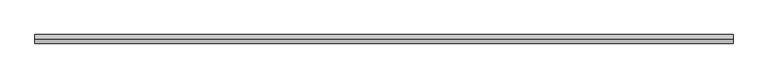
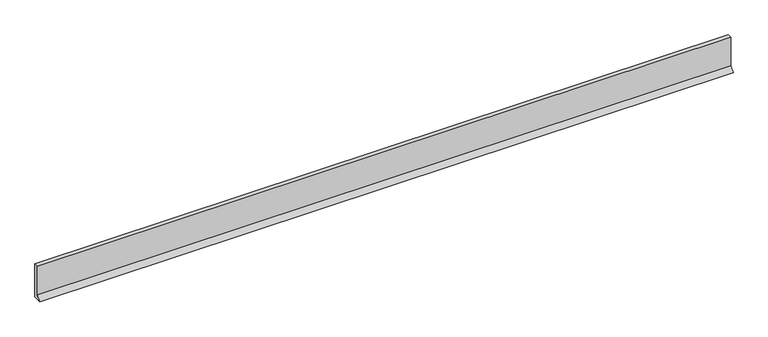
"""IFC4 building model written with IfcOpenShell, lengths in millimetres: plate geometry, ATELIERS 3S_EPURE CDB 250_HORIZONTAL : AZURO."""

import ifcopenshell
import ifcopenshell.guid

model = None  # the IFC model being written
_history = None  # IfcOwnerHistory: only IFC2X3 demands one
_inside = {}  # id of a spatial element -> (the spatial element, [elements in it])
_under = {}  # id of a project, library or spatial element -> (it, [spatial elements below it])
_declared = {}  # id of a project -> (the project, [libraries it declares])
_typed = {}  # id of a type object -> (the type object, [elements of that type])
_made_of = {}  # id of a material, layer set ... -> (it, [elements and type objects made of it])


def new_model(schema):
    """Start an empty IFC model of exactly this schema.

    Asked for "IFC4X3", IfcOpenShell would pick the latest addendum, in which some entities
    have other attributes; the version numbers below select the first issue.
    IFC2X3 requires an IfcOwnerHistory on every rooted entity: one is made here for all.
    """
    global model, _history
    if schema == "IFC4X3":
        model = ifcopenshell.file(schema_version=(4, 3, 0, 0))
    else:
        model = ifcopenshell.file(schema=schema)
    _inside.clear()
    _under.clear()
    _declared.clear()
    _typed.clear()
    _made_of.clear()
    _history = None
    if model.schema == "IFC2X3":
        org = make("IfcOrganization", Name="unknown")
        user = make(
            "IfcPersonAndOrganization",
            ThePerson=make("IfcPerson", FamilyName="unknown"),
            TheOrganization=org,
        )
        app = make(
            "IfcApplication",
            ApplicationDeveloper=org,
            Version="unknown",
            ApplicationFullName="unknown",
            ApplicationIdentifier="unknown",
        )
        _history = make(
            "IfcOwnerHistory",
            OwningUser=user,
            OwningApplication=app,
            ChangeAction="ADDED",
            CreationDate=0,
        )
    return model


def make(cls, **values):
    """One entity of the class cls with the attributes given. An attribute that is None is left unset."""
    return model.create_entity(
        cls, **{name: value for name, value in values.items() if value is not None}
    )


def rooted(cls, **values):
    """An entity with a GlobalId (a new one), such as an element, a storey or a relation."""
    return make(cls, GlobalId=ifcopenshell.guid.new(), OwnerHistory=_history, **values)


def si_unit(unit_type, name, prefix=None):
    """IfcSIUnit, for example si_unit("LENGTHUNIT", "METRE", prefix="MILLI")."""
    return make("IfcSIUnit", UnitType=unit_type, Prefix=prefix, Name=name)


def assignment(units):
    """IfcUnitAssignment: the units of a project."""
    return None if units is None else make("IfcUnitAssignment", Units=units)


def point(xyz):
    """IfcCartesianPoint."""
    return None if xyz is None else make("IfcCartesianPoint", Coordinates=xyz)


def direction(xyz):
    """IfcDirection."""
    return None if xyz is None else make("IfcDirection", DirectionRatios=xyz)


def frame(location, z_axis=None, x_axis=None):
    """IfcAxis2Placement3D, a coordinate frame: its origin and axes. An axis left out is left unset."""
    return make(
        "IfcAxis2Placement3D",
        Location=point(location),
        Axis=direction(z_axis),
        RefDirection=direction(x_axis),
    )


def origin():
    """The frame at (0, 0, 0) with its axes left unset."""
    return frame((0.0, 0.0, 0.0))


def place(relative_to, where):
    """IfcLocalPlacement: puts the frame where relative to a parent placement (None: the world)."""
    return make(
        "IfcLocalPlacement", PlacementRelTo=relative_to, RelativePlacement=where
    )


def context(
    kind, dimensions, precision=None, world=None, true_north=None, identifier=None
):
    """IfcGeometricRepresentationContext, for example the 3D "Model" context."""
    return make(
        "IfcGeometricRepresentationContext",
        ContextIdentifier=identifier,
        ContextType=kind,
        CoordinateSpaceDimension=dimensions,
        Precision=precision,
        WorldCoordinateSystem=world,
        TrueNorth=true_north,
    )


def project(units=None, contexts=None):
    """IfcProject with its units and contexts."""
    return rooted(
        "IfcProject",
        Name="project",
        RepresentationContexts=contexts,
        UnitsInContext=assignment(units),
    )


def spatial(cls, under=None, at=None, **own):
    """A site, building, storey or space (cls), placed at a placement, below another one or the project."""
    s = rooted(cls, ObjectPlacement=at, **own)
    if under is not None:
        _under.setdefault(under.id(), (under, []))[1].append(s)
    return s


def polyline(points):
    """IfcPolyline through the points."""
    return make("IfcPolyline", Points=[point(p) for p in points])


def outline(outer, holes=None, kind="AREA"):
    """IfcArbitraryClosedProfileDef: a profile drawn as a closed curve; with holes, ...WithVoids."""
    if holes is None:
        return make("IfcArbitraryClosedProfileDef", ProfileType=kind, OuterCurve=outer)
    return make(
        "IfcArbitraryProfileDefWithVoids",
        ProfileType=kind,
        OuterCurve=outer,
        InnerCurves=holes,
    )


def extrude(swept, where, along, depth):
    """IfcExtrudedAreaSolid: the profile swept, set in the frame where, extruded along a direction by depth."""
    return make(
        "IfcExtrudedAreaSolid",
        SweptArea=swept,
        Position=where,
        ExtrudedDirection=direction(along),
        Depth=depth,
    )


def shape(context_of_items, identifier, shape_type, items):
    """IfcShapeRepresentation: the items that make up one representation, for example the "Body"."""
    return make(
        "IfcShapeRepresentation",
        ContextOfItems=context_of_items,
        RepresentationIdentifier=identifier,
        RepresentationType=shape_type,
        Items=items,
    )


def source(mapping_origin, context_of_items, identifier, shape_type, items):
    """IfcRepresentationMap: a shape defined once, which mapped items show again and again."""
    return make(
        "IfcRepresentationMap",
        MappingOrigin=mapping_origin,
        MappedRepresentation=shape(context_of_items, identifier, shape_type, items),
    )


def transform(
    local_origin,
    x_axis=None,
    y_axis=None,
    z_axis=None,
    scale=None,
    scale2=None,
    scale3=None,
    uniform=True,
):
    """IfcCartesianTransformationOperator3D, or its non-uniform kind. x_axis, y_axis, z_axis: its Axis1, 2, 3."""
    if uniform:
        return make(
            "IfcCartesianTransformationOperator3D",
            Axis1=direction(x_axis),
            Axis2=direction(y_axis),
            LocalOrigin=point(local_origin),
            Scale=scale,
            Axis3=direction(z_axis),
        )
    return make(
        "IfcCartesianTransformationOperator3DnonUniform",
        Axis1=direction(x_axis),
        Axis2=direction(y_axis),
        LocalOrigin=point(local_origin),
        Scale=scale,
        Axis3=direction(z_axis),
        Scale2=scale2,
        Scale3=scale3,
    )


def mapped(mapping_source, mapping_target):
    """IfcMappedItem: shows the shape of a source again, moved by a transform."""
    return make(
        "IfcMappedItem", MappingSource=mapping_source, MappingTarget=mapping_target
    )


def made_of(thing, what):
    """Note that an element or type object is made of a material, layer set ...; save() writes the relation."""
    if what is not None:
        _made_of.setdefault(what.id(), (what, []))[1].append(thing)
    return thing


def element(
    cls,
    number,
    at=None,
    inside=None,
    cuts=None,
    type_object=None,
    material=None,
    context=None,
    identifier="Body",
    shape_type=None,
    held_by="IfcProductDefinitionShape",
    body=None,
    shapes=None,
    **own,
):
    """One element of the class cls, such as IfcWall. Its Tag is "e" and its number.

    at: its placement. inside: the storey or other place that contains it. cuts: it is an
    opening in that element (IfcRelVoidsElement). A single representation is given by context,
    identifier, shape_type and body (its items); several are given by shapes. held_by: the class
    of the entity that holds the representations. save() writes the other relations.
    """
    e = rooted(cls, Tag="e%d" % number, ObjectPlacement=at, **own)
    if body is not None:
        shapes = [shape(context, identifier, shape_type, body)]
    if shapes is not None:
        e.Representation = make(held_by, Representations=shapes)
    if inside is not None:
        _inside.setdefault(inside.id(), (inside, []))[1].append(e)
    if cuts is not None:
        rooted(
            "IfcRelVoidsElement", RelatingBuildingElement=cuts, RelatedOpeningElement=e
        )
    if type_object is not None:
        _typed.setdefault(type_object.id(), (type_object, []))[1].append(e)
    return made_of(e, material)


def aggregate(whole, parts):
    """IfcRelAggregates: a whole, such as a stair, and the parts it consists of."""
    return rooted("IfcRelAggregates", RelatingObject=whole, RelatedObjects=parts)


def save(model, path):
    """Write the relations noted so far, then the file.

    IfcRelAggregates (storeys below a building ...), IfcRelContainedInSpatialStructure (elements
    in a storey), IfcRelDefinesByType, IfcRelAssociatesMaterial and IfcRelDeclares: one each for
    every whole, place, type object, material and project.
    """
    for whole, parts in _under.values():
        aggregate(whole, parts)
    for where, things in _inside.values():
        rooted(
            "IfcRelContainedInSpatialStructure",
            RelatedElements=things,
            RelatingStructure=where,
        )
    for kind, things in _typed.values():
        rooted("IfcRelDefinesByType", RelatedObjects=things, RelatingType=kind)
    for what, things in _made_of.values():
        rooted("IfcRelAssociatesMaterial", RelatedObjects=things, RelatingMaterial=what)
    for by, libraries in _declared.values():
        rooted("IfcRelDeclares", RelatingContext=by, RelatedDefinitions=libraries)
    model.write(path)


def plate_c0eb13c4(model_context):
    return source(origin(), model_context, "Body", "SweptSolid", [
        extrude(outline(polyline([(-30.0201339, 31.7071152), (-30.0201339, 250.0), (0.0, 250.0), (0.0, 0.0), (-61.727249, 0.0), (-30.0201339, 31.7071152)])), frame((-2500.0, 0.0, 0.0), z_axis=(1.0, 0.0, 0.0), x_axis=(0.0, 1.0, 0.0)), (0.0, 0.0, 1.0), 5000.0),
    ])


if __name__ == "__main__":
    model = new_model("IFC4")
    model_context = context("Model", 3, world=origin())
    ifc_project = project(units=[si_unit("LENGTHUNIT", "METRE", prefix="MILLI")], contexts=[model_context])
    site = spatial("IfcSite", under=ifc_project)
    building = spatial("IfcBuilding", under=site)
    placement = place(None, origin())
    plate_shape = plate_c0eb13c4(model_context)
    element("IfcPlate", 1, ObjectType="ATELIERS 3S_EPURE CDB 250_HORIZONTAL : AZURO", at=placement, inside=building, context=model_context, shape_type="MappedRepresentation", body=[
        mapped(plate_shape, transform((0.0, 0.0, 0.0), x_axis=(1.0, 0.0, 0.0), y_axis=(0.0, 1.0, 0.0), z_axis=(0.0, 0.0, 1.0))),
    ])
    save(model, "model.ifc")
